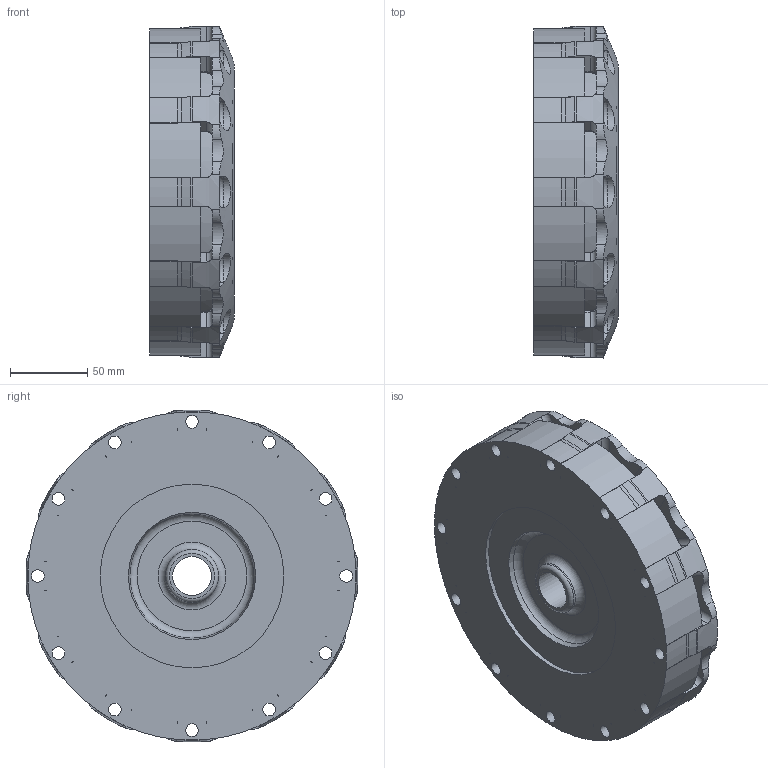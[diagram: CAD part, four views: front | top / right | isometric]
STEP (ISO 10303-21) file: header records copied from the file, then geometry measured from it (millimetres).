
FILE_DESCRIPTION(/* description */ ('Unknown'),/* implementation_level */ '2;1');
FILE_NAME(/* name */ '6573USG-P',/* time_stamp */ '2016-12-02T15:06:25-08:00',/* author */ ('Unknown'),/* organization */ ('Unknown'),/* preprocessor_version */ 'ST-DEVELOPER v16.7',/* originating_system */ 'DEX',/* authorisation */ $);
FILE_SCHEMA (('AUTOMOTIVE_DESIGN {1 0 10303 214 3 1 1}'));
Length unit declared in the file: millimetre
Products named in the file (1): 6573USG-P
Bounding box: 54.97 x 215.33 x 215.33 mm (x, y, z)
Volume: 1487448.8 mm3; surface area: 160359.5 mm2
Topology: 1 solids, 1 shells, 738 faces, 2068 edges, 1338 vertices
Faces by surface type: plane 326, cylinder 307, torus 68, cone 37
Full cylindrical faces by diameter (mm): 8.204 x12, 9.361 x8, 25.4 x1, 34.29 x2, 82.55 x1, 97.536 x1, 108.458 x1, 119.202 x1
Entity records: 33566 total; most frequent: CARTESIAN_POINT 15339, ORIENTED_EDGE 4002, DIRECTION 3466, EDGE_CURVE 2001, VERTEX_POINT 1319, AXIS2_PLACEMENT_3D 1270, LINE 926, VECTOR 926
